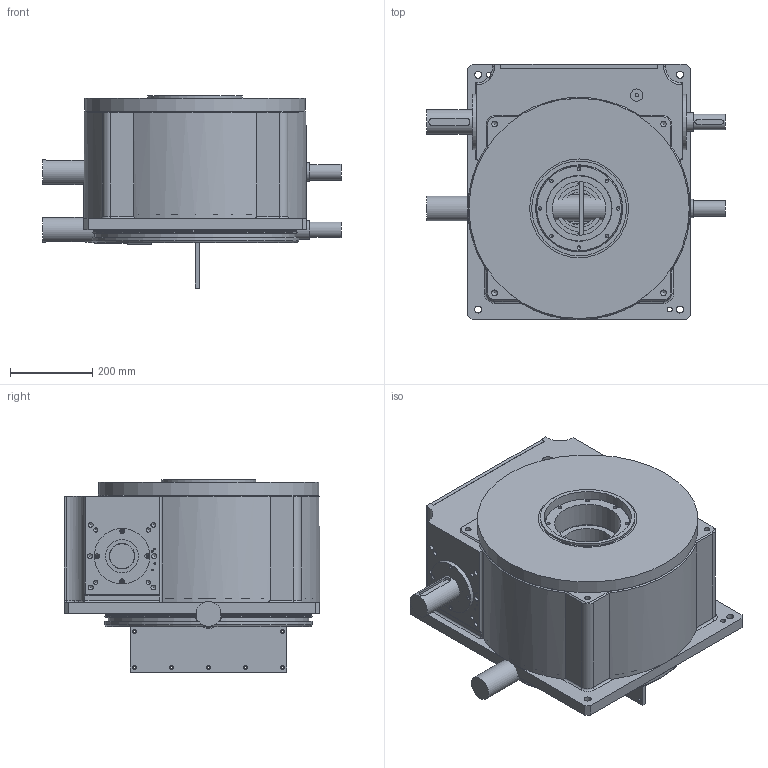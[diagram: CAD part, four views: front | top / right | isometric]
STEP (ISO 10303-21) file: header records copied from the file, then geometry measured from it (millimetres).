
FILE_DESCRIPTION( ( 'Unknown' ), '1' );
FILE_NAME( 'X:/solid edge/TAVOLE/T75/Schemi/T75.stp', 'Unknown', ( 'Unknown' ), ( 'Unknown' ), 'PSStep 11.0', 'Unknown', ' ' );
FILE_SCHEMA( ( 'AUTOMOTIVE_DESIGN { 1 0 10303 214 1 1 1 1 }' ) );
Length unit declared in the file: millimetre
Products named in the file (7): Assem1; 211302; 02714_; 211070; 31314_; 215514; targhetta
Bounding box: 725 x 620.5 x 466.25 mm (x, y, z)
Volume: 95290589.1 mm3; surface area: 6525642.6 mm2
Topology: 13 solids, 13 shells, 3906 faces, 10218 edges, 6672 vertices
Faces by surface type: plane 2566, cylinder 694, extrusion 298, cone 194, torus 68, sphere 68, bspline 18
Full cylindrical faces by diameter (mm): 2.5 x4, 3 x4, 4.134 x60, 5.5 x40, 6.647 x4, 8.376 x18, 9.5 x28, 10.106 x40, 11.835 x16, 12 x12, 13.835 x8, 17 x8, 30 x2, 38 x2, 45 x2, 46.5 x2, 50 x4, 55 x2, 60 x4, 61.5 x3, 62 x2, 65 x4, 70 x2, 80 x3, 92 x3, 96 x4, 108.4 x3, 110 x4, 111 x7, 130 x2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
Entity records: 80930 total; most frequent: CARTESIAN_POINT 21862, ORIENTED_EDGE 9172, DIRECTION 7781, EDGE_CURVE 4586, VERTEX_POINT 3200, VECTOR 2657, AXIS2_PLACEMENT_3D 2562, LINE 2508
